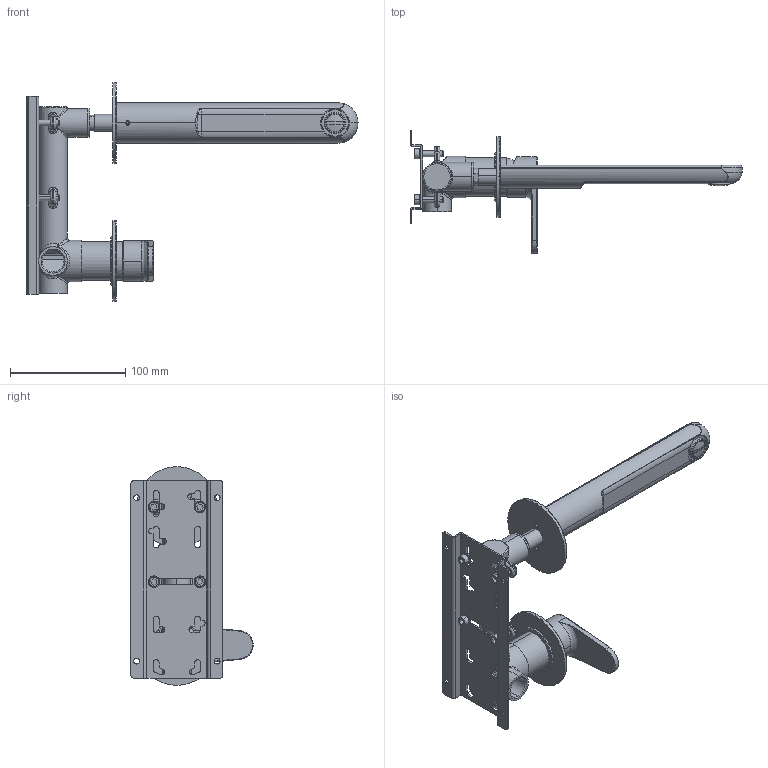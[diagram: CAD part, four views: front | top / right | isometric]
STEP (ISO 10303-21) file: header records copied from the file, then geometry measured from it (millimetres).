
FILE_DESCRIPTION (( 'STEP AP203' ), '1' );
FILE_NAME ('VKN84.STEP', '2023-11-27T09:31:03', ( '' ), ( '' ), 'SwSTEP 2.0', 'SolidWorks 2021', '' );
FILE_SCHEMA (( 'CONFIG_CONTROL_DESIGN' ));
Length unit declared in the file: millimetre
Products named in the file (24): C11.10.0019; C24.1955.00.1; C11.10.0061; C47.00.0023.01; C12.00.0051; C24.2151.00.1; C25.2348.00.1; VKN84; C24.2580.00.0; C21.1428.00.0; C24.2661.00; C24.0120.00.1; ING84; C11.14.0003; C10.00.0020; C12.00.0032; C23.2649.00; C24.2656.00; C12.00.0008; C11.14.0009; C13.00.0014; C18.23.0004; C11.12.0020; C24.1560.00.0
Assembly tree (32 placements, depth 3):
  VKN84
    ING84
      C21.1428.00.0
      C18.23.0004
      C24.1955.00.1
      C12.00.0008
      C12.00.0051  x3
      C10.00.0020
      C11.10.0019  x4
      C11.12.0020  x4
      C25.2348.00.1
    C11.14.0003
    C12.00.0032
    C24.2151.00.1
    C11.10.0061  x2
    C13.00.0014
    C23.2649.00
    C24.0120.00.1
    C24.1560.00.0
    C24.2656.00
    C24.2661.00
    C24.2580.00.0
    C47.00.0023.01
    C11.14.0009
Bounding box: 288.5 x 106.27 x 190 mm (x, y, z)
Volume: 246686.7 mm3; surface area: 158101.1 mm2
Topology: 33 solids, 33 shells, 1122 faces, 2654 edges, 1646 vertices
Faces by surface type: cylinder 428, plane 399, cone 134, torus 101, bspline 60
Entity records: 37532 total; most frequent: CARTESIAN_POINT 11445, DIRECTION 5033, ORIENTED_EDGE 4750, EDGE_CURVE 2375, AXIS2_PLACEMENT_3D 1980, VERTEX_POINT 1486, EDGE_LOOP 1139, VECTOR 1073
